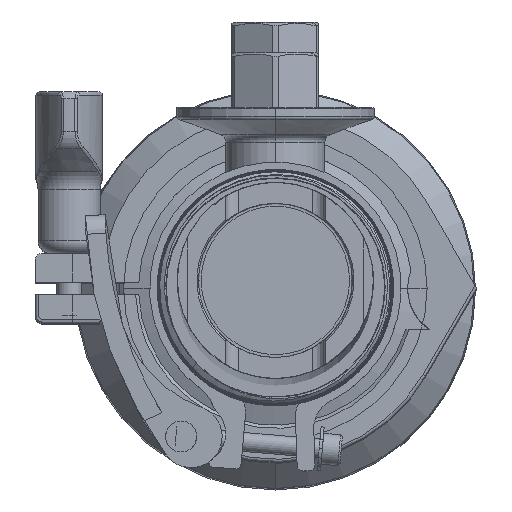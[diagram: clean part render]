
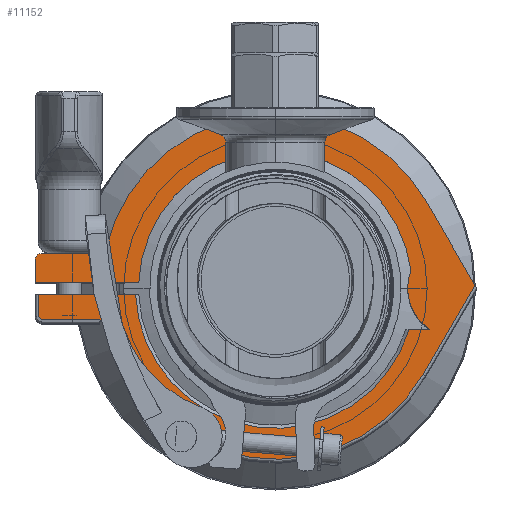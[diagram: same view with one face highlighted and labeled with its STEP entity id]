
A CAD part, top view. The second image highlights one B-rep face of the part: STEP entity #11152.
In plain terms, the highlighted planar face has unit normal (0, 0, 1).
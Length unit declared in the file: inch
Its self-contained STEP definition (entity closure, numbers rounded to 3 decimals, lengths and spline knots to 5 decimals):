
#9351=DIRECTION('',(1.,0.,0.));
#9352=VECTOR('',#9351,0.97706);
#9353=CARTESIAN_POINT('',(-2.38264,-0.063,14.032));
#9354=LINE('',#9353,#9352);
#9355=DIRECTION('',(1.,0.,0.));
#9356=VECTOR('',#9355,0.20603);
#9357=CARTESIAN_POINT('',(1.34442,-0.41493,14.032));
#9358=LINE('',#9357,#9356);
#9359=CARTESIAN_POINT('',(1.82944,0.,14.032));
#9360=DIRECTION('',(0.,0.,1.));
#9361=DIRECTION('',(-0.933,0.361,0.));
#9362=AXIS2_PLACEMENT_3D('',#9359,#9360,#9361);
#9364=CARTESIAN_POINT('',(0.,0.,14.032));
#9365=DIRECTION('',(0.,0.,1.));
#9366=DIRECTION('',(0.991,0.131,0.));
#9367=AXIS2_PLACEMENT_3D('',#9364,#9365,#9366);
#9369=DIRECTION('',(-1.,0.,0.));
#9370=VECTOR('',#9369,1.04104);
#9371=CARTESIAN_POINT('',(-1.3736,0.062,14.032));
#9372=LINE('',#9371,#9370);
#9373=DIRECTION('',(1.,0.,0.));
#9374=VECTOR('',#9373,0.58452);
#9375=CARTESIAN_POINT('',(-2.35064,0.35,14.032));
#9376=LINE('',#9375,#9374);
#9377=CARTESIAN_POINT('',(-1.76613,0.414,14.032));
#9378=DIRECTION('',(0.,0.,1.));
#9379=DIRECTION('',(0.,-1.,0.));
#9380=AXIS2_PLACEMENT_3D('',#9377,#9378,#9379);
#9382=CARTESIAN_POINT('',(0.,0.,14.032));
#9383=DIRECTION('',(0.,0.,-1.));
#9384=DIRECTION('',(-0.974,0.228,0.));
#9385=AXIS2_PLACEMENT_3D('',#9382,#9383,#9384);
#9387=CARTESIAN_POINT('',(-1.67266,-0.39209,14.032));
#9388=CARTESIAN_POINT('',(-1.67468,-0.38347,14.032));
#9389=CARTESIAN_POINT('',(-1.68084,-0.36751,14.032));
#9390=CARTESIAN_POINT('',(-1.69623,-0.34653,14.032));
#9391=CARTESIAN_POINT('',(-1.71641,-0.33054,14.032));
#9392=CARTESIAN_POINT('',(-1.74033,-0.32035,14.032));
#9393=CARTESIAN_POINT('',(-1.75728,-0.318,14.032));
#9394=CARTESIAN_POINT('',(-1.76613,-0.318,14.032));
#9449=DIRECTION('',(-0.503,0.864,0.));
#9450=VECTOR('',#9449,0.98209);
#9451=CARTESIAN_POINT('',(2.00649,0.0318,14.032));
#9452=LINE('',#9451,#9450);
#9504=DIRECTION('',(0.,-1.,0.));
#9505=VECTOR('',#9504,0.224);
#9506=CARTESIAN_POINT('',(-2.41464,0.286,14.032));
#9507=LINE('',#9506,#9505);
#9594=CARTESIAN_POINT('',(-2.35064,0.286,14.032));
#9595=DIRECTION('',(0.,0.,1.));
#9596=DIRECTION('',(0.,1.,0.));
#9597=AXIS2_PLACEMENT_3D('',#9594,#9595,#9596);
#9627=CARTESIAN_POINT('',(0.,0.,14.032));
#9628=DIRECTION('',(0.,0.,-1.));
#9629=DIRECTION('',(0.956,-0.295,0.));
#9630=AXIS2_PLACEMENT_3D('',#9627,#9628,#9629);
#9861=DIRECTION('',(0.,1.,0.));
#9862=VECTOR('',#9861,0.223);
#9863=CARTESIAN_POINT('',(-2.38264,-0.286,14.032));
#9864=LINE('',#9863,#9862);
#9884=CARTESIAN_POINT('',(-2.35064,-0.318,14.032));
#9885=CARTESIAN_POINT('',(-2.35347,-0.318,14.032));
#9886=CARTESIAN_POINT('',(-2.35892,-0.31728,14.032));
#9887=CARTESIAN_POINT('',(-2.36681,-0.31405,14.032));
#9888=CARTESIAN_POINT('',(-2.37353,-0.30888,14.032));
#9889=CARTESIAN_POINT('',(-2.37869,-0.30216,14.032));
#9890=CARTESIAN_POINT('',(-2.38192,-0.29428,14.032));
#9891=CARTESIAN_POINT('',(-2.38264,-0.28883,14.032));
#9892=CARTESIAN_POINT('',(-2.38264,-0.286,14.032));
#9903=DIRECTION('',(-1.,0.,0.));
#9904=VECTOR('',#9903,0.58452);
#9905=CARTESIAN_POINT('',(-1.76613,-0.318,14.032));
#9906=LINE('',#9905,#9904);
#9922=CARTESIAN_POINT('',(0.,0.,14.032));
#9923=DIRECTION('',(0.,0.,-1.));
#9924=DIRECTION('',(0.864,-0.503,0.));
#9925=AXIS2_PLACEMENT_3D('',#9922,#9923,#9924);
#9936=DIRECTION('',(-0.503,-0.864,0.));
#9937=VECTOR('',#9936,1.03705);
#9938=CARTESIAN_POINT('',(2.00649,0.0318,14.032));
#9939=LINE('',#9938,#9937);
#10841=CARTESIAN_POINT('',(-2.35064,0.35,14.032));
#10842=CARTESIAN_POINT('',(-2.41464,0.286,14.032));
#10843=VERTEX_POINT('',#10841);
#10844=VERTEX_POINT('',#10842);
#10845=CARTESIAN_POINT('',(-1.70381,0.39939,14.032));
#10846=CARTESIAN_POINT('',(1.51235,0.88052,14.032));
#10847=VERTEX_POINT('',#10845);
#10848=VERTEX_POINT('',#10846);
#10849=CARTESIAN_POINT('',(-1.76613,0.35,14.032));
#10850=VERTEX_POINT('',#10849);
#10855=CARTESIAN_POINT('',(1.34442,-0.41493,14.032));
#10856=CARTESIAN_POINT('',(-1.40559,-0.063,14.032));
#10857=VERTEX_POINT('',#10855);
#10858=VERTEX_POINT('',#10856);
#10914=CARTESIAN_POINT('',(-2.41464,0.062,14.032));
#10915=CARTESIAN_POINT('',(-1.3736,0.062,14.032));
#10916=VERTEX_POINT('',#10914);
#10917=VERTEX_POINT('',#10915);
#10940=CARTESIAN_POINT('',(1.36311,0.1804,14.032));
#10941=CARTESIAN_POINT('',(1.55046,-0.41493,14.032));
#10942=VERTEX_POINT('',#10940);
#10943=VERTEX_POINT('',#10941);
#10951=CARTESIAN_POINT('',(-2.38264,-0.063,14.032));
#10952=VERTEX_POINT('',#10951);
#10971=CARTESIAN_POINT('',(-2.38264,-0.286,14.032));
#10972=VERTEX_POINT('',#10971);
#10973=VERTEX_POINT('',#9884);
#10974=CARTESIAN_POINT('',(-1.76613,-0.318,14.032));
#10975=VERTEX_POINT('',#10974);
#10976=VERTEX_POINT('',#9387);
#10977=CARTESIAN_POINT('',(1.48469,-0.86442,14.032));
#10978=VERTEX_POINT('',#10977);
#10981=CARTESIAN_POINT('',(2.00649,0.0318,14.032));
#10982=VERTEX_POINT('',#10981);
#11109=CARTESIAN_POINT('',(0.,0.,14.032));
#11110=DIRECTION('',(0.,0.,-1.));
#11111=DIRECTION('',(-1.,0.,0.));
#11112=AXIS2_PLACEMENT_3D('',#11109,#11110,#11111);
#11113=PLANE('',#11112);
#11115=ORIENTED_EDGE('',*,*,#11114,.T.);
#11117=ORIENTED_EDGE('',*,*,#11116,.F.);
#11119=ORIENTED_EDGE('',*,*,#11118,.T.);
#11121=ORIENTED_EDGE('',*,*,#11120,.F.);
#11123=ORIENTED_EDGE('',*,*,#11122,.T.);
#11125=ORIENTED_EDGE('',*,*,#11124,.T.);
#11127=ORIENTED_EDGE('',*,*,#11126,.F.);
#11129=ORIENTED_EDGE('',*,*,#11128,.F.);
#11131=ORIENTED_EDGE('',*,*,#11130,.T.);
#11133=ORIENTED_EDGE('',*,*,#11132,.T.);
#11135=ORIENTED_EDGE('',*,*,#11134,.T.);
#11137=ORIENTED_EDGE('',*,*,#11136,.F.);
#11139=ORIENTED_EDGE('',*,*,#11138,.T.);
#11141=ORIENTED_EDGE('',*,*,#11140,.T.);
#11143=ORIENTED_EDGE('',*,*,#11142,.T.);
#11145=ORIENTED_EDGE('',*,*,#11144,.T.);
#11147=ORIENTED_EDGE('',*,*,#11146,.T.);
#11149=ORIENTED_EDGE('',*,*,#11148,.T.);
#11150=EDGE_LOOP('',(#11115,#11117,#11119,#11121,#11123,#11125,#11127,#11129,
#11131,#11133,#11135,#11137,#11139,#11141,#11143,#11145,#11147,#11149));
#11151=FACE_OUTER_BOUND('',#11150,.F.);
#11152=ADVANCED_FACE('',(#11151),#11113,.F.);
#9363=CIRCLE('',#9362,0.5);
#9368=CIRCLE('',#9367,1.375);
#9381=CIRCLE('',#9380,0.064);
#9386=CIRCLE('',#9385,1.75);
#9395=B_SPLINE_CURVE_WITH_KNOTS('',3,(#9387,#9388,#9389,#9390,#9391,#9392,#9393,
#9394),.UNSPECIFIED.,.F.,.F.,(4,1,1,1,1,4),(0.,0.2,0.4,0.6,0.8,1.),
.UNSPECIFIED.);
#9598=CIRCLE('',#9597,0.064);
#9631=CIRCLE('',#9630,1.407);
#9893=B_SPLINE_CURVE_WITH_KNOTS('',3,(#9884,#9885,#9886,#9887,#9888,#9889,#9890,
#9891,#9892),.UNSPECIFIED.,.F.,.F.,(4,1,1,1,1,1,4),(0.,0.16667,
0.33333,0.5,0.66667,0.83333,1.),
.UNSPECIFIED.);
#9926=CIRCLE('',#9925,1.718);
#11114=EDGE_CURVE('',#10952,#10858,#9354,.T.);
#11116=EDGE_CURVE('',#10857,#10858,#9631,.T.);
#11118=EDGE_CURVE('',#10857,#10943,#9358,.T.);
#11120=EDGE_CURVE('',#10942,#10943,#9363,.T.);
#11122=EDGE_CURVE('',#10942,#10917,#9368,.T.);
#11124=EDGE_CURVE('',#10917,#10916,#9372,.T.);
#11126=EDGE_CURVE('',#10844,#10916,#9507,.T.);
#11128=EDGE_CURVE('',#10843,#10844,#9598,.T.);
#11130=EDGE_CURVE('',#10843,#10850,#9376,.T.);
#11132=EDGE_CURVE('',#10850,#10847,#9381,.T.);
#11134=EDGE_CURVE('',#10847,#10848,#9386,.T.);
#11136=EDGE_CURVE('',#10982,#10848,#9452,.T.);
#11138=EDGE_CURVE('',#10982,#10978,#9939,.T.);
#11140=EDGE_CURVE('',#10978,#10976,#9926,.T.);
#11142=EDGE_CURVE('',#10976,#10975,#9395,.T.);
#11144=EDGE_CURVE('',#10975,#10973,#9906,.T.);
#11146=EDGE_CURVE('',#10973,#10972,#9893,.T.);
#11148=EDGE_CURVE('',#10972,#10952,#9864,.T.);
